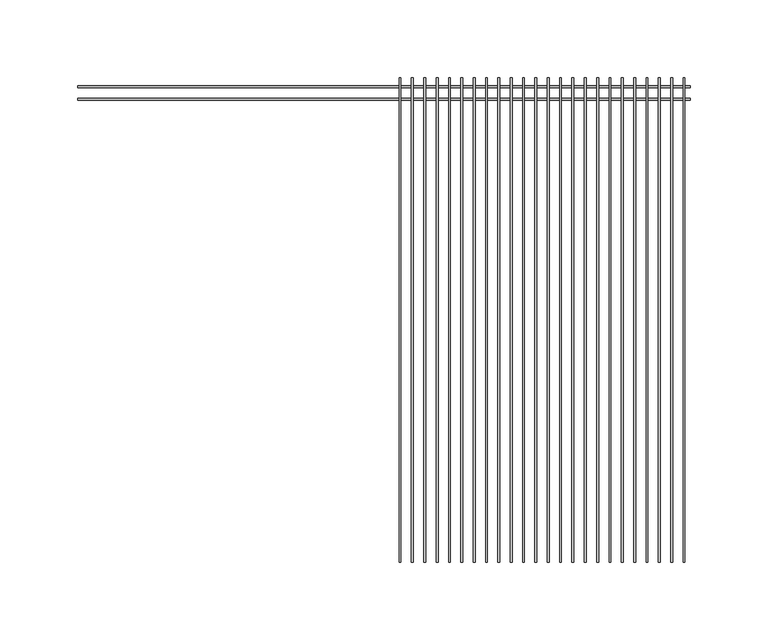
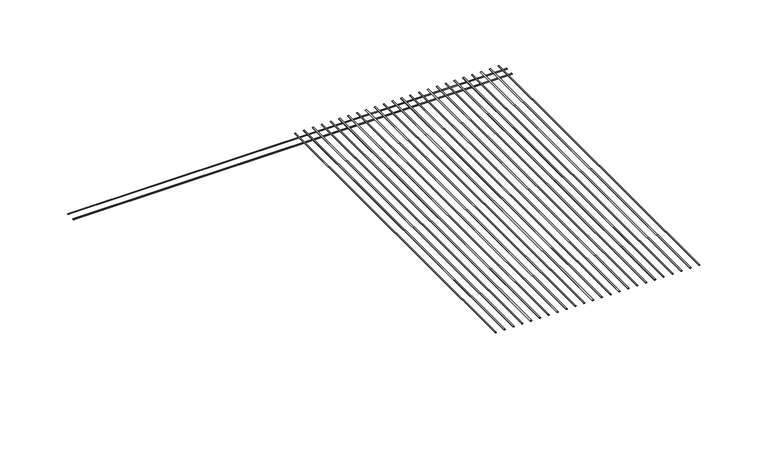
"""IFC4 building model written with IfcOpenShell, lengths in millimetres: proxy geometry, CRAi Generic Model Mesh Piece Face Based : CRAi Generic Model Mesh Piece Face Based."""

from ifc_helpers import new_model, si_unit, point, frame, origin, place, context, project, spatial, ellipse_curve, trimmed, source, transform, mapped, element, save
from ifc_brep_helpers import plane_surface, extruded_surface, advanced_brep


def generic_models_cb092f88(model_context):
    return source(origin(), model_context, "Body", "AdvancedBrep", [
        advanced_brep(
        [(9.7234375, -155.6875423, -2.5796875), (10.9140625, -155.6875423, -2.5796875), (9.7234375, 155.6875423, -2.5796875), (10.9140625, 155.6875423, -2.5796875)],
        [
            (0, 1, ellipse_curve(frame((10.31875, -155.6875423, -2.5796875), z_axis=(0.0, -1.0, 0.0), x_axis=(1.0, 0.0, 0.0)), 0.5953125, 0.1984375)),
            (1, 0, ellipse_curve(frame((10.31875, -155.6875423, -2.5796875), z_axis=(0.0, -1.0, 0.0), x_axis=(1.0, 0.0, 0.0)), 0.5953125, 0.1984375)),
            (2, 3, ellipse_curve(frame((10.31875, 155.6875423, -2.5796875), z_axis=(0.0, 1.0, 0.0), x_axis=(1.0, 0.0, 0.0)), 0.5953125, 0.1984375)),
            (3, 2, ellipse_curve(frame((10.31875, 155.6875423, -2.5796875), z_axis=(0.0, 1.0, 0.0), x_axis=(1.0, 0.0, 0.0)), 0.5953125, 0.1984375)),
            (0, 2),
            (3, 1),
        ],
        [
            plane_surface(frame((10.31875, -155.6875423, -2.5796875), z_axis=(0.0, -1.0, 0.0), x_axis=(0.0, 0.0, 1.0))),
            plane_surface(frame((10.31875, 155.6875423, -2.5796875), z_axis=(0.0, 1.0, 0.0), x_axis=(0.0, 0.0, 1.0))),
            extruded_surface(trimmed(ellipse_curve(frame((10.31875, 155.6875423, -2.5796875), z_axis=(0.0, -1.0, 0.0), x_axis=(1.0, 0.0, 0.0)), 0.5953125, 0.1984375), [point((9.7234375, 155.6875423, -2.5796875))], [point((10.9140625, 155.6875423, -2.5796875))], True, "CARTESIAN"), (0.0, -311.3750846, 0.0), 311.3750846),
            extruded_surface(trimmed(ellipse_curve(frame((10.31875, 155.6875423, -2.5796875), z_axis=(0.0, -1.0, 0.0), x_axis=(1.0, 0.0, 0.0)), 0.5953125, 0.1984375), [point((10.9140625, 155.6875423, -2.5796875))], [point((9.7234375, 155.6875423, -2.5796875))], True, "CARTESIAN"), (0.0, -311.3750846, 0.0), 311.3750846),
        ],
        [
            (0, [[1, 2]]),
            (1, [[3, 4]]),
            (2, [[-1, 5, -4, 6]]),
            (3, [[-2, -6, -3, -5]]),
        ],
    ),
        advanced_brep(
        [(17.6609375, -155.6875423, -2.5796875), (18.8515625, -155.6875423, -2.5796875), (17.6609375, 155.6875423, -2.5796875), (18.8515625, 155.6875423, -2.5796875)],
        [
            (0, 1, ellipse_curve(frame((18.25625, -155.6875423, -2.5796875), z_axis=(0.0, -1.0, 0.0), x_axis=(1.0, 0.0, 0.0)), 0.5953125, 0.1984375)),
            (1, 0, ellipse_curve(frame((18.25625, -155.6875423, -2.5796875), z_axis=(0.0, -1.0, 0.0), x_axis=(1.0, 0.0, 0.0)), 0.5953125, 0.1984375)),
            (2, 3, ellipse_curve(frame((18.25625, 155.6875423, -2.5796875), z_axis=(0.0, 1.0, 0.0), x_axis=(1.0, 0.0, 0.0)), 0.5953125, 0.1984375)),
            (3, 2, ellipse_curve(frame((18.25625, 155.6875423, -2.5796875), z_axis=(0.0, 1.0, 0.0), x_axis=(1.0, 0.0, 0.0)), 0.5953125, 0.1984375)),
            (0, 2),
            (3, 1),
        ],
        [
            plane_surface(frame((18.25625, -155.6875423, -2.5796875), z_axis=(0.0, -1.0, 0.0), x_axis=(0.0, 0.0, 1.0))),
            plane_surface(frame((18.25625, 155.6875423, -2.5796875), z_axis=(0.0, 1.0, 0.0), x_axis=(0.0, 0.0, 1.0))),
            extruded_surface(trimmed(ellipse_curve(frame((18.25625, 155.6875423, -2.5796875), z_axis=(0.0, -1.0, 0.0), x_axis=(1.0, 0.0, 0.0)), 0.5953125, 0.1984375), [point((17.6609375, 155.6875423, -2.5796875))], [point((18.8515625, 155.6875423, -2.5796875))], True, "CARTESIAN"), (0.0, -311.3750846, 0.0), 311.3750846),
            extruded_surface(trimmed(ellipse_curve(frame((18.25625, 155.6875423, -2.5796875), z_axis=(0.0, -1.0, 0.0), x_axis=(1.0, 0.0, 0.0)), 0.5953125, 0.1984375), [point((18.8515625, 155.6875423, -2.5796875))], [point((17.6609375, 155.6875423, -2.5796875))], True, "CARTESIAN"), (0.0, -311.3750846, 0.0), 311.3750846),
        ],
        [
            (0, [[1, 2]]),
            (1, [[3, 4]]),
            (2, [[-1, 5, -4, 6]]),
            (3, [[-2, -6, -3, -5]]),
        ],
    ),
        advanced_brep(
        [(25.5984375, -155.6875423, -2.5796875), (26.7890625, -155.6875423, -2.5796875), (25.5984375, 155.6875423, -2.5796875), (26.7890625, 155.6875423, -2.5796875)],
        [
            (0, 1, ellipse_curve(frame((26.19375, -155.6875423, -2.5796875), z_axis=(0.0, -1.0, 0.0), x_axis=(1.0, 0.0, 0.0)), 0.5953125, 0.1984375)),
            (1, 0, ellipse_curve(frame((26.19375, -155.6875423, -2.5796875), z_axis=(0.0, -1.0, 0.0), x_axis=(1.0, 0.0, 0.0)), 0.5953125, 0.1984375)),
            (2, 3, ellipse_curve(frame((26.19375, 155.6875423, -2.5796875), z_axis=(0.0, 1.0, 0.0), x_axis=(1.0, 0.0, 0.0)), 0.5953125, 0.1984375)),
            (3, 2, ellipse_curve(frame((26.19375, 155.6875423, -2.5796875), z_axis=(0.0, 1.0, 0.0), x_axis=(1.0, 0.0, 0.0)), 0.5953125, 0.1984375)),
            (0, 2),
            (3, 1),
        ],
        [
            plane_surface(frame((26.19375, -155.6875423, -2.5796875), z_axis=(0.0, -1.0, 0.0), x_axis=(0.0, 0.0, 1.0))),
            plane_surface(frame((26.19375, 155.6875423, -2.5796875), z_axis=(0.0, 1.0, 0.0), x_axis=(0.0, 0.0, 1.0))),
            extruded_surface(trimmed(ellipse_curve(frame((26.19375, 155.6875423, -2.5796875), z_axis=(0.0, -1.0, 0.0), x_axis=(1.0, 0.0, 0.0)), 0.5953125, 0.1984375), [point((25.5984375, 155.6875423, -2.5796875))], [point((26.7890625, 155.6875423, -2.5796875))], True, "CARTESIAN"), (0.0, -311.3750846, 0.0), 311.3750846),
            extruded_surface(trimmed(ellipse_curve(frame((26.19375, 155.6875423, -2.5796875), z_axis=(0.0, -1.0, 0.0), x_axis=(1.0, 0.0, 0.0)), 0.5953125, 0.1984375), [point((26.7890625, 155.6875423, -2.5796875))], [point((25.5984375, 155.6875423, -2.5796875))], True, "CARTESIAN"), (0.0, -311.3750846, 0.0), 311.3750846),
        ],
        [
            (0, [[1, 2]]),
            (1, [[3, 4]]),
            (2, [[-1, 5, -4, 6]]),
            (3, [[-2, -6, -3, -5]]),
        ],
    ),
        advanced_brep(
        [(33.5359375, -155.6875423, -2.5796875), (34.7265625, -155.6875423, -2.5796875), (33.5359375, 155.6875423, -2.5796875), (34.7265625, 155.6875423, -2.5796875)],
        [
            (0, 1, ellipse_curve(frame((34.13125, -155.6875423, -2.5796875), z_axis=(0.0, -1.0, 0.0), x_axis=(1.0, 0.0, 0.0)), 0.5953125, 0.1984375)),
            (1, 0, ellipse_curve(frame((34.13125, -155.6875423, -2.5796875), z_axis=(0.0, -1.0, 0.0), x_axis=(1.0, 0.0, 0.0)), 0.5953125, 0.1984375)),
            (2, 3, ellipse_curve(frame((34.13125, 155.6875423, -2.5796875), z_axis=(0.0, 1.0, 0.0), x_axis=(1.0, 0.0, 0.0)), 0.5953125, 0.1984375)),
            (3, 2, ellipse_curve(frame((34.13125, 155.6875423, -2.5796875), z_axis=(0.0, 1.0, 0.0), x_axis=(1.0, 0.0, 0.0)), 0.5953125, 0.1984375)),
            (0, 2),
            (3, 1),
        ],
        [
            plane_surface(frame((34.13125, -155.6875423, -2.5796875), z_axis=(0.0, -1.0, 0.0), x_axis=(0.0, 0.0, 1.0))),
            plane_surface(frame((34.13125, 155.6875423, -2.5796875), z_axis=(0.0, 1.0, 0.0), x_axis=(0.0, 0.0, 1.0))),
            extruded_surface(trimmed(ellipse_curve(frame((34.13125, 155.6875423, -2.5796875), z_axis=(0.0, -1.0, 0.0), x_axis=(1.0, 0.0, 0.0)), 0.5953125, 0.1984375), [point((33.5359375, 155.6875423, -2.5796875))], [point((34.7265625, 155.6875423, -2.5796875))], True, "CARTESIAN"), (0.0, -311.3750846, 0.0), 311.3750846),
            extruded_surface(trimmed(ellipse_curve(frame((34.13125, 155.6875423, -2.5796875), z_axis=(0.0, -1.0, 0.0), x_axis=(1.0, 0.0, 0.0)), 0.5953125, 0.1984375), [point((34.7265625, 155.6875423, -2.5796875))], [point((33.5359375, 155.6875423, -2.5796875))], True, "CARTESIAN"), (0.0, -311.3750846, 0.0), 311.3750846),
        ],
        [
            (0, [[1, 2]]),
            (1, [[3, 4]]),
            (2, [[-1, 5, -4, 6]]),
            (3, [[-2, -6, -3, -5]]),
        ],
    ),
        advanced_brep(
        [(41.4734375, -155.6875423, -2.5796875), (42.6640625, -155.6875423, -2.5796875), (41.4734375, 155.6875423, -2.5796875), (42.6640625, 155.6875423, -2.5796875)],
        [
            (0, 1, ellipse_curve(frame((42.06875, -155.6875423, -2.5796875), z_axis=(0.0, -1.0, 0.0), x_axis=(1.0, 0.0, 0.0)), 0.5953125, 0.1984375)),
            (1, 0, ellipse_curve(frame((42.06875, -155.6875423, -2.5796875), z_axis=(0.0, -1.0, 0.0), x_axis=(1.0, 0.0, 0.0)), 0.5953125, 0.1984375)),
            (2, 3, ellipse_curve(frame((42.06875, 155.6875423, -2.5796875), z_axis=(0.0, 1.0, 0.0), x_axis=(1.0, 0.0, 0.0)), 0.5953125, 0.1984375)),
            (3, 2, ellipse_curve(frame((42.06875, 155.6875423, -2.5796875), z_axis=(0.0, 1.0, 0.0), x_axis=(1.0, 0.0, 0.0)), 0.5953125, 0.1984375)),
            (0, 2),
            (3, 1),
        ],
        [
            plane_surface(frame((42.06875, -155.6875423, -2.5796875), z_axis=(0.0, -1.0, 0.0), x_axis=(0.0, 0.0, 1.0))),
            plane_surface(frame((42.06875, 155.6875423, -2.5796875), z_axis=(0.0, 1.0, 0.0), x_axis=(0.0, 0.0, 1.0))),
            extruded_surface(trimmed(ellipse_curve(frame((42.06875, 155.6875423, -2.5796875), z_axis=(0.0, -1.0, 0.0), x_axis=(1.0, 0.0, 0.0)), 0.5953125, 0.1984375), [point((41.4734375, 155.6875423, -2.5796875))], [point((42.6640625, 155.6875423, -2.5796875))], True, "CARTESIAN"), (0.0, -311.3750846, 0.0), 311.3750846),
            extruded_surface(trimmed(ellipse_curve(frame((42.06875, 155.6875423, -2.5796875), z_axis=(0.0, -1.0, 0.0), x_axis=(1.0, 0.0, 0.0)), 0.5953125, 0.1984375), [point((42.6640625, 155.6875423, -2.5796875))], [point((41.4734375, 155.6875423, -2.5796875))], True, "CARTESIAN"), (0.0, -311.3750846, 0.0), 311.3750846),
        ],
        [
            (0, [[1, 2]]),
            (1, [[3, 4]]),
            (2, [[-1, 5, -4, 6]]),
            (3, [[-2, -6, -3, -5]]),
        ],
    ),
        advanced_brep(
        [(49.4109375, -155.6875423, -2.5796875), (50.6015625, -155.6875423, -2.5796875), (49.4109375, 155.6875423, -2.5796875), (50.6015625, 155.6875423, -2.5796875)],
        [
            (0, 1, ellipse_curve(frame((50.00625, -155.6875423, -2.5796875), z_axis=(0.0, -1.0, 0.0), x_axis=(1.0, 0.0, 0.0)), 0.5953125, 0.1984375)),
            (1, 0, ellipse_curve(frame((50.00625, -155.6875423, -2.5796875), z_axis=(0.0, -1.0, 0.0), x_axis=(1.0, 0.0, 0.0)), 0.5953125, 0.1984375)),
            (2, 3, ellipse_curve(frame((50.00625, 155.6875423, -2.5796875), z_axis=(0.0, 1.0, 0.0), x_axis=(1.0, 0.0, 0.0)), 0.5953125, 0.1984375)),
            (3, 2, ellipse_curve(frame((50.00625, 155.6875423, -2.5796875), z_axis=(0.0, 1.0, 0.0), x_axis=(1.0, 0.0, 0.0)), 0.5953125, 0.1984375)),
            (0, 2),
            (3, 1),
        ],
        [
            plane_surface(frame((50.00625, -155.6875423, -2.5796875), z_axis=(0.0, -1.0, 0.0), x_axis=(0.0, 0.0, 1.0))),
            plane_surface(frame((50.00625, 155.6875423, -2.5796875), z_axis=(0.0, 1.0, 0.0), x_axis=(0.0, 0.0, 1.0))),
            extruded_surface(trimmed(ellipse_curve(frame((50.00625, 155.6875423, -2.5796875), z_axis=(0.0, -1.0, 0.0), x_axis=(1.0, 0.0, 0.0)), 0.5953125, 0.1984375), [point((49.4109375, 155.6875423, -2.5796875))], [point((50.6015625, 155.6875423, -2.5796875))], True, "CARTESIAN"), (0.0, -311.3750846, 0.0), 311.3750846),
            extruded_surface(trimmed(ellipse_curve(frame((50.00625, 155.6875423, -2.5796875), z_axis=(0.0, -1.0, 0.0), x_axis=(1.0, 0.0, 0.0)), 0.5953125, 0.1984375), [point((50.6015625, 155.6875423, -2.5796875))], [point((49.4109375, 155.6875423, -2.5796875))], True, "CARTESIAN"), (0.0, -311.3750846, 0.0), 311.3750846),
        ],
        [
            (0, [[1, 2]]),
            (1, [[3, 4]]),
            (2, [[-1, 5, -4, 6]]),
            (3, [[-2, -6, -3, -5]]),
        ],
    ),
        advanced_brep(
        [(57.3484375, -155.6875423, -2.5796875), (58.5390625, -155.6875423, -2.5796875), (57.3484375, 155.6875423, -2.5796875), (58.5390625, 155.6875423, -2.5796875)],
        [
            (0, 1, ellipse_curve(frame((57.94375, -155.6875423, -2.5796875), z_axis=(0.0, -1.0, 0.0), x_axis=(1.0, 0.0, 0.0)), 0.5953125, 0.1984375)),
            (1, 0, ellipse_curve(frame((57.94375, -155.6875423, -2.5796875), z_axis=(0.0, -1.0, 0.0), x_axis=(1.0, 0.0, 0.0)), 0.5953125, 0.1984375)),
            (2, 3, ellipse_curve(frame((57.94375, 155.6875423, -2.5796875), z_axis=(0.0, 1.0, 0.0), x_axis=(1.0, 0.0, 0.0)), 0.5953125, 0.1984375)),
            (3, 2, ellipse_curve(frame((57.94375, 155.6875423, -2.5796875), z_axis=(0.0, 1.0, 0.0), x_axis=(1.0, 0.0, 0.0)), 0.5953125, 0.1984375)),
            (0, 2),
            (3, 1),
        ],
        [
            plane_surface(frame((57.94375, -155.6875423, -2.5796875), z_axis=(0.0, -1.0, 0.0), x_axis=(0.0, 0.0, 1.0))),
            plane_surface(frame((57.94375, 155.6875423, -2.5796875), z_axis=(0.0, 1.0, 0.0), x_axis=(0.0, 0.0, 1.0))),
            extruded_surface(trimmed(ellipse_curve(frame((57.94375, 155.6875423, -2.5796875), z_axis=(0.0, -1.0, 0.0), x_axis=(1.0, 0.0, 0.0)), 0.5953125, 0.1984375), [point((57.3484375, 155.6875423, -2.5796875))], [point((58.5390625, 155.6875423, -2.5796875))], True, "CARTESIAN"), (0.0, -311.3750846, 0.0), 311.3750846),
            extruded_surface(trimmed(ellipse_curve(frame((57.94375, 155.6875423, -2.5796875), z_axis=(0.0, -1.0, 0.0), x_axis=(1.0, 0.0, 0.0)), 0.5953125, 0.1984375), [point((58.5390625, 155.6875423, -2.5796875))], [point((57.3484375, 155.6875423, -2.5796875))], True, "CARTESIAN"), (0.0, -311.3750846, 0.0), 311.3750846),
        ],
        [
            (0, [[1, 2]]),
            (1, [[3, 4]]),
            (2, [[-1, 5, -4, 6]]),
            (3, [[-2, -6, -3, -5]]),
        ],
    ),
        advanced_brep(
        [(65.2859375, -155.6875423, -2.5796875), (66.4765625, -155.6875423, -2.5796875), (65.2859375, 155.6875423, -2.5796875), (66.4765625, 155.6875423, -2.5796875)],
        [
            (0, 1, ellipse_curve(frame((65.88125, -155.6875423, -2.5796875), z_axis=(0.0, -1.0, 0.0), x_axis=(1.0, 0.0, 0.0)), 0.5953125, 0.1984375)),
            (1, 0, ellipse_curve(frame((65.88125, -155.6875423, -2.5796875), z_axis=(0.0, -1.0, 0.0), x_axis=(1.0, 0.0, 0.0)), 0.5953125, 0.1984375)),
            (2, 3, ellipse_curve(frame((65.88125, 155.6875423, -2.5796875), z_axis=(0.0, 1.0, 0.0), x_axis=(1.0, 0.0, 0.0)), 0.5953125, 0.1984375)),
            (3, 2, ellipse_curve(frame((65.88125, 155.6875423, -2.5796875), z_axis=(0.0, 1.0, 0.0), x_axis=(1.0, 0.0, 0.0)), 0.5953125, 0.1984375)),
            (0, 2),
            (3, 1),
        ],
        [
            plane_surface(frame((65.88125, -155.6875423, -2.5796875), z_axis=(0.0, -1.0, 0.0), x_axis=(0.0, 0.0, 1.0))),
            plane_surface(frame((65.88125, 155.6875423, -2.5796875), z_axis=(0.0, 1.0, 0.0), x_axis=(0.0, 0.0, 1.0))),
            extruded_surface(trimmed(ellipse_curve(frame((65.88125, 155.6875423, -2.5796875), z_axis=(0.0, -1.0, 0.0), x_axis=(1.0, 0.0, 0.0)), 0.5953125, 0.1984375), [point((65.2859375, 155.6875423, -2.5796875))], [point((66.4765625, 155.6875423, -2.5796875))], True, "CARTESIAN"), (0.0, -311.3750846, 0.0), 311.3750846),
            extruded_surface(trimmed(ellipse_curve(frame((65.88125, 155.6875423, -2.5796875), z_axis=(0.0, -1.0, 0.0), x_axis=(1.0, 0.0, 0.0)), 0.5953125, 0.1984375), [point((66.4765625, 155.6875423, -2.5796875))], [point((65.2859375, 155.6875423, -2.5796875))], True, "CARTESIAN"), (0.0, -311.3750846, 0.0), 311.3750846),
        ],
        [
            (0, [[1, 2]]),
            (1, [[3, 4]]),
            (2, [[-1, 5, -4, 6]]),
            (3, [[-2, -6, -3, -5]]),
        ],
    ),
        advanced_brep(
        [(73.2234375, -155.6875423, -2.5796875), (74.4140625, -155.6875423, -2.5796875), (73.2234375, 155.6875423, -2.5796875), (74.4140625, 155.6875423, -2.5796875)],
        [
            (0, 1, ellipse_curve(frame((73.81875, -155.6875423, -2.5796875), z_axis=(0.0, -1.0, 0.0), x_axis=(1.0, 0.0, 0.0)), 0.5953125, 0.1984375)),
            (1, 0, ellipse_curve(frame((73.81875, -155.6875423, -2.5796875), z_axis=(0.0, -1.0, 0.0), x_axis=(1.0, 0.0, 0.0)), 0.5953125, 0.1984375)),
            (2, 3, ellipse_curve(frame((73.81875, 155.6875423, -2.5796875), z_axis=(0.0, 1.0, 0.0), x_axis=(1.0, 0.0, 0.0)), 0.5953125, 0.1984375)),
            (3, 2, ellipse_curve(frame((73.81875, 155.6875423, -2.5796875), z_axis=(0.0, 1.0, 0.0), x_axis=(1.0, 0.0, 0.0)), 0.5953125, 0.1984375)),
            (0, 2),
            (3, 1),
        ],
        [
            plane_surface(frame((73.81875, -155.6875423, -2.5796875), z_axis=(0.0, -1.0, 0.0), x_axis=(0.0, 0.0, 1.0))),
            plane_surface(frame((73.81875, 155.6875423, -2.5796875), z_axis=(0.0, 1.0, 0.0), x_axis=(0.0, 0.0, 1.0))),
            extruded_surface(trimmed(ellipse_curve(frame((73.81875, 155.6875423, -2.5796875), z_axis=(0.0, -1.0, 0.0), x_axis=(1.0, 0.0, 0.0)), 0.5953125, 0.1984375), [point((73.2234375, 155.6875423, -2.5796875))], [point((74.4140625, 155.6875423, -2.5796875))], True, "CARTESIAN"), (0.0, -311.3750846, 0.0), 311.3750846),
            extruded_surface(trimmed(ellipse_curve(frame((73.81875, 155.6875423, -2.5796875), z_axis=(0.0, -1.0, 0.0), x_axis=(1.0, 0.0, 0.0)), 0.5953125, 0.1984375), [point((74.4140625, 155.6875423, -2.5796875))], [point((73.2234375, 155.6875423, -2.5796875))], True, "CARTESIAN"), (0.0, -311.3750846, 0.0), 311.3750846),
        ],
        [
            (0, [[1, 2]]),
            (1, [[3, 4]]),
            (2, [[-1, 5, -4, 6]]),
            (3, [[-2, -6, -3, -5]]),
        ],
    ),
        advanced_brep(
        [(81.1609375, -155.6875423, -2.5796875), (82.3515625, -155.6875423, -2.5796875), (81.1609375, 155.6875423, -2.5796875), (82.3515625, 155.6875423, -2.5796875)],
        [
            (0, 1, ellipse_curve(frame((81.75625, -155.6875423, -2.5796875), z_axis=(0.0, -1.0, 0.0), x_axis=(1.0, 0.0, 0.0)), 0.5953125, 0.1984375)),
            (1, 0, ellipse_curve(frame((81.75625, -155.6875423, -2.5796875), z_axis=(0.0, -1.0, 0.0), x_axis=(1.0, 0.0, 0.0)), 0.5953125, 0.1984375)),
            (2, 3, ellipse_curve(frame((81.75625, 155.6875423, -2.5796875), z_axis=(0.0, 1.0, 0.0), x_axis=(1.0, 0.0, 0.0)), 0.5953125, 0.1984375)),
            (3, 2, ellipse_curve(frame((81.75625, 155.6875423, -2.5796875), z_axis=(0.0, 1.0, 0.0), x_axis=(1.0, 0.0, 0.0)), 0.5953125, 0.1984375)),
            (0, 2),
            (3, 1),
        ],
        [
            plane_surface(frame((81.75625, -155.6875423, -2.5796875), z_axis=(0.0, -1.0, 0.0), x_axis=(0.0, 0.0, 1.0))),
            plane_surface(frame((81.75625, 155.6875423, -2.5796875), z_axis=(0.0, 1.0, 0.0), x_axis=(0.0, 0.0, 1.0))),
            extruded_surface(trimmed(ellipse_curve(frame((81.75625, 155.6875423, -2.5796875), z_axis=(0.0, -1.0, 0.0), x_axis=(1.0, 0.0, 0.0)), 0.5953125, 0.1984375), [point((81.1609375, 155.6875423, -2.5796875))], [point((82.3515625, 155.6875423, -2.5796875))], True, "CARTESIAN"), (0.0, -311.3750846, 0.0), 311.3750846),
            extruded_surface(trimmed(ellipse_curve(frame((81.75625, 155.6875423, -2.5796875), z_axis=(0.0, -1.0, 0.0), x_axis=(1.0, 0.0, 0.0)), 0.5953125, 0.1984375), [point((82.3515625, 155.6875423, -2.5796875))], [point((81.1609375, 155.6875423, -2.5796875))], True, "CARTESIAN"), (0.0, -311.3750846, 0.0), 311.3750846),
        ],
        [
            (0, [[1, 2]]),
            (1, [[3, 4]]),
            (2, [[-1, 5, -4, 6]]),
            (3, [[-2, -6, -3, -5]]),
        ],
    ),
        advanced_brep(
        [(89.0984375, -155.6875423, -2.5796875), (90.2890625, -155.6875423, -2.5796875), (89.0984375, 155.6875423, -2.5796875), (90.2890625, 155.6875423, -2.5796875)],
        [
            (0, 1, ellipse_curve(frame((89.69375, -155.6875423, -2.5796875), z_axis=(0.0, -1.0, 0.0), x_axis=(1.0, 0.0, 0.0)), 0.5953125, 0.1984375)),
            (1, 0, ellipse_curve(frame((89.69375, -155.6875423, -2.5796875), z_axis=(0.0, -1.0, 0.0), x_axis=(1.0, 0.0, 0.0)), 0.5953125, 0.1984375)),
            (2, 3, ellipse_curve(frame((89.69375, 155.6875423, -2.5796875), z_axis=(0.0, 1.0, 0.0), x_axis=(1.0, 0.0, 0.0)), 0.5953125, 0.1984375)),
            (3, 2, ellipse_curve(frame((89.69375, 155.6875423, -2.5796875), z_axis=(0.0, 1.0, 0.0), x_axis=(1.0, 0.0, 0.0)), 0.5953125, 0.1984375)),
            (0, 2),
            (3, 1),
        ],
        [
            plane_surface(frame((89.69375, -155.6875423, -2.5796875), z_axis=(0.0, -1.0, 0.0), x_axis=(0.0, 0.0, 1.0))),
            plane_surface(frame((89.69375, 155.6875423, -2.5796875), z_axis=(0.0, 1.0, 0.0), x_axis=(0.0, 0.0, 1.0))),
            extruded_surface(trimmed(ellipse_curve(frame((89.69375, 155.6875423, -2.5796875), z_axis=(0.0, -1.0, 0.0), x_axis=(1.0, 0.0, 0.0)), 0.5953125, 0.1984375), [point((89.0984375, 155.6875423, -2.5796875))], [point((90.2890625, 155.6875423, -2.5796875))], True, "CARTESIAN"), (0.0, -311.3750846, 0.0), 311.3750846),
            extruded_surface(trimmed(ellipse_curve(frame((89.69375, 155.6875423, -2.5796875), z_axis=(0.0, -1.0, 0.0), x_axis=(1.0, 0.0, 0.0)), 0.5953125, 0.1984375), [point((90.2890625, 155.6875423, -2.5796875))], [point((89.0984375, 155.6875423, -2.5796875))], True, "CARTESIAN"), (0.0, -311.3750846, 0.0), 311.3750846),
        ],
        [
            (0, [[1, 2]]),
            (1, [[3, 4]]),
            (2, [[-1, 5, -4, 6]]),
            (3, [[-2, -6, -3, -5]]),
        ],
    ),
        advanced_brep(
        [(97.0359375, -155.6875423, -2.5796875), (98.2265625, -155.6875423, -2.5796875), (97.0359375, 155.6875423, -2.5796875), (98.2265625, 155.6875423, -2.5796875)],
        [
            (0, 1, ellipse_curve(frame((97.63125, -155.6875423, -2.5796875), z_axis=(0.0, -1.0, 0.0), x_axis=(1.0, 0.0, 0.0)), 0.5953125, 0.1984375)),
            (1, 0, ellipse_curve(frame((97.63125, -155.6875423, -2.5796875), z_axis=(0.0, -1.0, 0.0), x_axis=(1.0, 0.0, 0.0)), 0.5953125, 0.1984375)),
            (2, 3, ellipse_curve(frame((97.63125, 155.6875423, -2.5796875), z_axis=(0.0, 1.0, 0.0), x_axis=(1.0, 0.0, 0.0)), 0.5953125, 0.1984375)),
            (3, 2, ellipse_curve(frame((97.63125, 155.6875423, -2.5796875), z_axis=(0.0, 1.0, 0.0), x_axis=(1.0, 0.0, 0.0)), 0.5953125, 0.1984375)),
            (0, 2),
            (3, 1),
        ],
        [
            plane_surface(frame((97.63125, -155.6875423, -2.5796875), z_axis=(0.0, -1.0, 0.0), x_axis=(0.0, 0.0, 1.0))),
            plane_surface(frame((97.63125, 155.6875423, -2.5796875), z_axis=(0.0, 1.0, 0.0), x_axis=(0.0, 0.0, 1.0))),
            extruded_surface(trimmed(ellipse_curve(frame((97.63125, 155.6875423, -2.5796875), z_axis=(0.0, -1.0, 0.0), x_axis=(1.0, 0.0, 0.0)), 0.5953125, 0.1984375), [point((97.0359375, 155.6875423, -2.5796875))], [point((98.2265625, 155.6875423, -2.5796875))], True, "CARTESIAN"), (0.0, -311.3750846, 0.0), 311.3750846),
            extruded_surface(trimmed(ellipse_curve(frame((97.63125, 155.6875423, -2.5796875), z_axis=(0.0, -1.0, 0.0), x_axis=(1.0, 0.0, 0.0)), 0.5953125, 0.1984375), [point((98.2265625, 155.6875423, -2.5796875))], [point((97.0359375, 155.6875423, -2.5796875))], True, "CARTESIAN"), (0.0, -311.3750846, 0.0), 311.3750846),
        ],
        [
            (0, [[1, 2]]),
            (1, [[3, 4]]),
            (2, [[-1, 5, -4, 6]]),
            (3, [[-2, -6, -3, -5]]),
        ],
    ),
        advanced_brep(
        [(104.9734375, -155.6875423, -2.5796875), (106.1640625, -155.6875423, -2.5796875), (104.9734375, 155.6875423, -2.5796875), (106.1640625, 155.6875423, -2.5796875)],
        [
            (0, 1, ellipse_curve(frame((105.56875, -155.6875423, -2.5796875), z_axis=(0.0, -1.0, 0.0), x_axis=(1.0, 0.0, 0.0)), 0.5953125, 0.1984375)),
            (1, 0, ellipse_curve(frame((105.56875, -155.6875423, -2.5796875), z_axis=(0.0, -1.0, 0.0), x_axis=(1.0, 0.0, 0.0)), 0.5953125, 0.1984375)),
            (2, 3, ellipse_curve(frame((105.56875, 155.6875423, -2.5796875), z_axis=(0.0, 1.0, 0.0), x_axis=(1.0, 0.0, 0.0)), 0.5953125, 0.1984375)),
            (3, 2, ellipse_curve(frame((105.56875, 155.6875423, -2.5796875), z_axis=(0.0, 1.0, 0.0), x_axis=(1.0, 0.0, 0.0)), 0.5953125, 0.1984375)),
            (0, 2),
            (3, 1),
        ],
        [
            plane_surface(frame((105.56875, -155.6875423, -2.5796875), z_axis=(0.0, -1.0, 0.0), x_axis=(0.0, 0.0, 1.0))),
            plane_surface(frame((105.56875, 155.6875423, -2.5796875), z_axis=(0.0, 1.0, 0.0), x_axis=(0.0, 0.0, 1.0))),
            extruded_surface(trimmed(ellipse_curve(frame((105.56875, 155.6875423, -2.5796875), z_axis=(0.0, -1.0, 0.0), x_axis=(1.0, 0.0, 0.0)), 0.5953125, 0.1984375), [point((104.9734375, 155.6875423, -2.5796875))], [point((106.1640625, 155.6875423, -2.5796875))], True, "CARTESIAN"), (0.0, -311.3750846, 0.0), 311.3750846),
            extruded_surface(trimmed(ellipse_curve(frame((105.56875, 155.6875423, -2.5796875), z_axis=(0.0, -1.0, 0.0), x_axis=(1.0, 0.0, 0.0)), 0.5953125, 0.1984375), [point((106.1640625, 155.6875423, -2.5796875))], [point((104.9734375, 155.6875423, -2.5796875))], True, "CARTESIAN"), (0.0, -311.3750846, 0.0), 311.3750846),
        ],
        [
            (0, [[1, 2]]),
            (1, [[3, 4]]),
            (2, [[-1, 5, -4, 6]]),
            (3, [[-2, -6, -3, -5]]),
        ],
    ),
        advanced_brep(
        [(112.9109375, -155.6875423, -2.5796875), (114.1015625, -155.6875423, -2.5796875), (112.9109375, 155.6875423, -2.5796875), (114.1015625, 155.6875423, -2.5796875)],
        [
            (0, 1, ellipse_curve(frame((113.50625, -155.6875423, -2.5796875), z_axis=(0.0, -1.0, 0.0), x_axis=(1.0, 0.0, 0.0)), 0.5953125, 0.1984375)),
            (1, 0, ellipse_curve(frame((113.50625, -155.6875423, -2.5796875), z_axis=(0.0, -1.0, 0.0), x_axis=(1.0, 0.0, 0.0)), 0.5953125, 0.1984375)),
            (2, 3, ellipse_curve(frame((113.50625, 155.6875423, -2.5796875), z_axis=(0.0, 1.0, 0.0), x_axis=(1.0, 0.0, 0.0)), 0.5953125, 0.1984375)),
            (3, 2, ellipse_curve(frame((113.50625, 155.6875423, -2.5796875), z_axis=(0.0, 1.0, 0.0), x_axis=(1.0, 0.0, 0.0)), 0.5953125, 0.1984375)),
            (0, 2),
            (3, 1),
        ],
        [
            plane_surface(frame((113.50625, -155.6875423, -2.5796875), z_axis=(0.0, -1.0, 0.0), x_axis=(0.0, 0.0, 1.0))),
            plane_surface(frame((113.50625, 155.6875423, -2.5796875), z_axis=(0.0, 1.0, 0.0), x_axis=(0.0, 0.0, 1.0))),
            extruded_surface(trimmed(ellipse_curve(frame((113.50625, 155.6875423, -2.5796875), z_axis=(0.0, -1.0, 0.0), x_axis=(1.0, 0.0, 0.0)), 0.5953125, 0.1984375), [point((112.9109375, 155.6875423, -2.5796875))], [point((114.1015625, 155.6875423, -2.5796875))], True, "CARTESIAN"), (0.0, -311.3750846, 0.0), 311.3750846),
            extruded_surface(trimmed(ellipse_curve(frame((113.50625, 155.6875423, -2.5796875), z_axis=(0.0, -1.0, 0.0), x_axis=(1.0, 0.0, 0.0)), 0.5953125, 0.1984375), [point((114.1015625, 155.6875423, -2.5796875))], [point((112.9109375, 155.6875423, -2.5796875))], True, "CARTESIAN"), (0.0, -311.3750846, 0.0), 311.3750846),
        ],
        [
            (0, [[1, 2]]),
            (1, [[3, 4]]),
            (2, [[-1, 5, -4, 6]]),
            (3, [[-2, -6, -3, -5]]),
        ],
    ),
        advanced_brep(
        [(120.8484375, -155.6875423, -2.5796875), (122.0390625, -155.6875423, -2.5796875), (120.8484375, 155.6875423, -2.5796875), (122.0390625, 155.6875423, -2.5796875)],
        [
            (0, 1, ellipse_curve(frame((121.44375, -155.6875423, -2.5796875), z_axis=(0.0, -1.0, 0.0), x_axis=(1.0, 0.0, 0.0)), 0.5953125, 0.1984375)),
            (1, 0, ellipse_curve(frame((121.44375, -155.6875423, -2.5796875), z_axis=(0.0, -1.0, 0.0), x_axis=(1.0, 0.0, 0.0)), 0.5953125, 0.1984375)),
            (2, 3, ellipse_curve(frame((121.44375, 155.6875423, -2.5796875), z_axis=(0.0, 1.0, 0.0), x_axis=(1.0, 0.0, 0.0)), 0.5953125, 0.1984375)),
            (3, 2, ellipse_curve(frame((121.44375, 155.6875423, -2.5796875), z_axis=(0.0, 1.0, 0.0), x_axis=(1.0, 0.0, 0.0)), 0.5953125, 0.1984375)),
            (0, 2),
            (3, 1),
        ],
        [
            plane_surface(frame((121.44375, -155.6875423, -2.5796875), z_axis=(0.0, -1.0, 0.0), x_axis=(0.0, 0.0, 1.0))),
            plane_surface(frame((121.44375, 155.6875423, -2.5796875), z_axis=(0.0, 1.0, 0.0), x_axis=(0.0, 0.0, 1.0))),
            extruded_surface(trimmed(ellipse_curve(frame((121.44375, 155.6875423, -2.5796875), z_axis=(0.0, -1.0, 0.0), x_axis=(1.0, 0.0, 0.0)), 0.5953125, 0.1984375), [point((120.8484375, 155.6875423, -2.5796875))], [point((122.0390625, 155.6875423, -2.5796875))], True, "CARTESIAN"), (0.0, -311.3750846, 0.0), 311.3750846),
            extruded_surface(trimmed(ellipse_curve(frame((121.44375, 155.6875423, -2.5796875), z_axis=(0.0, -1.0, 0.0), x_axis=(1.0, 0.0, 0.0)), 0.5953125, 0.1984375), [point((122.0390625, 155.6875423, -2.5796875))], [point((120.8484375, 155.6875423, -2.5796875))], True, "CARTESIAN"), (0.0, -311.3750846, 0.0), 311.3750846),
        ],
        [
            (0, [[1, 2]]),
            (1, [[3, 4]]),
            (2, [[-1, 5, -4, 6]]),
            (3, [[-2, -6, -3, -5]]),
        ],
    ),
        advanced_brep(
        [(128.7859375, -155.6875423, -2.5796875), (129.9765625, -155.6875423, -2.5796875), (128.7859375, 155.6875423, -2.5796875), (129.9765625, 155.6875423, -2.5796875)],
        [
            (0, 1, ellipse_curve(frame((129.38125, -155.6875423, -2.5796875), z_axis=(0.0, -1.0, 0.0), x_axis=(1.0, 0.0, 0.0)), 0.5953125, 0.1984375)),
            (1, 0, ellipse_curve(frame((129.38125, -155.6875423, -2.5796875), z_axis=(0.0, -1.0, 0.0), x_axis=(1.0, 0.0, 0.0)), 0.5953125, 0.1984375)),
            (2, 3, ellipse_curve(frame((129.38125, 155.6875423, -2.5796875), z_axis=(0.0, 1.0, 0.0), x_axis=(1.0, 0.0, 0.0)), 0.5953125, 0.1984375)),
            (3, 2, ellipse_curve(frame((129.38125, 155.6875423, -2.5796875), z_axis=(0.0, 1.0, 0.0), x_axis=(1.0, 0.0, 0.0)), 0.5953125, 0.1984375)),
            (0, 2),
            (3, 1),
        ],
        [
            plane_surface(frame((129.38125, -155.6875423, -2.5796875), z_axis=(0.0, -1.0, 0.0), x_axis=(0.0, 0.0, 1.0))),
            plane_surface(frame((129.38125, 155.6875423, -2.5796875), z_axis=(0.0, 1.0, 0.0), x_axis=(0.0, 0.0, 1.0))),
            extruded_surface(trimmed(ellipse_curve(frame((129.38125, 155.6875423, -2.5796875), z_axis=(0.0, -1.0, 0.0), x_axis=(1.0, 0.0, 0.0)), 0.5953125, 0.1984375), [point((128.7859375, 155.6875423, -2.5796875))], [point((129.9765625, 155.6875423, -2.5796875))], True, "CARTESIAN"), (0.0, -311.3750846, 0.0), 311.3750846),
            extruded_surface(trimmed(ellipse_curve(frame((129.38125, 155.6875423, -2.5796875), z_axis=(0.0, -1.0, 0.0), x_axis=(1.0, 0.0, 0.0)), 0.5953125, 0.1984375), [point((129.9765625, 155.6875423, -2.5796875))], [point((128.7859375, 155.6875423, -2.5796875))], True, "CARTESIAN"), (0.0, -311.3750846, 0.0), 311.3750846),
        ],
        [
            (0, [[1, 2]]),
            (1, [[3, 4]]),
            (2, [[-1, 5, -4, 6]]),
            (3, [[-2, -6, -3, -5]]),
        ],
    ),
        advanced_brep(
        [(136.7234375, -155.6875423, -2.5796875), (137.9140625, -155.6875423, -2.5796875), (136.7234375, 155.6875423, -2.5796875), (137.9140625, 155.6875423, -2.5796875)],
        [
            (0, 1, ellipse_curve(frame((137.31875, -155.6875423, -2.5796875), z_axis=(0.0, -1.0, 0.0), x_axis=(1.0, 0.0, 0.0)), 0.5953125, 0.1984375)),
            (1, 0, ellipse_curve(frame((137.31875, -155.6875423, -2.5796875), z_axis=(0.0, -1.0, 0.0), x_axis=(1.0, 0.0, 0.0)), 0.5953125, 0.1984375)),
            (2, 3, ellipse_curve(frame((137.31875, 155.6875423, -2.5796875), z_axis=(0.0, 1.0, 0.0), x_axis=(1.0, 0.0, 0.0)), 0.5953125, 0.1984375)),
            (3, 2, ellipse_curve(frame((137.31875, 155.6875423, -2.5796875), z_axis=(0.0, 1.0, 0.0), x_axis=(1.0, 0.0, 0.0)), 0.5953125, 0.1984375)),
            (0, 2),
            (3, 1),
        ],
        [
            plane_surface(frame((137.31875, -155.6875423, -2.5796875), z_axis=(0.0, -1.0, 0.0), x_axis=(0.0, 0.0, 1.0))),
            plane_surface(frame((137.31875, 155.6875423, -2.5796875), z_axis=(0.0, 1.0, 0.0), x_axis=(0.0, 0.0, 1.0))),
            extruded_surface(trimmed(ellipse_curve(frame((137.31875, 155.6875423, -2.5796875), z_axis=(0.0, -1.0, 0.0), x_axis=(1.0, 0.0, 0.0)), 0.5953125, 0.1984375), [point((136.7234375, 155.6875423, -2.5796875))], [point((137.9140625, 155.6875423, -2.5796875))], True, "CARTESIAN"), (0.0, -311.3750846, 0.0), 311.3750846),
            extruded_surface(trimmed(ellipse_curve(frame((137.31875, 155.6875423, -2.5796875), z_axis=(0.0, -1.0, 0.0), x_axis=(1.0, 0.0, 0.0)), 0.5953125, 0.1984375), [point((137.9140625, 155.6875423, -2.5796875))], [point((136.7234375, 155.6875423, -2.5796875))], True, "CARTESIAN"), (0.0, -311.3750846, 0.0), 311.3750846),
        ],
        [
            (0, [[1, 2]]),
            (1, [[3, 4]]),
            (2, [[-1, 5, -4, 6]]),
            (3, [[-2, -6, -3, -5]]),
        ],
    ),
        advanced_brep(
        [(144.6609375, -155.6875423, -2.5796875), (145.8515625, -155.6875423, -2.5796875), (144.6609375, 155.6875423, -2.5796875), (145.8515625, 155.6875423, -2.5796875)],
        [
            (0, 1, ellipse_curve(frame((145.25625, -155.6875423, -2.5796875), z_axis=(0.0, -1.0, 0.0), x_axis=(1.0, 0.0, 0.0)), 0.5953125, 0.1984375)),
            (1, 0, ellipse_curve(frame((145.25625, -155.6875423, -2.5796875), z_axis=(0.0, -1.0, 0.0), x_axis=(1.0, 0.0, 0.0)), 0.5953125, 0.1984375)),
            (2, 3, ellipse_curve(frame((145.25625, 155.6875423, -2.5796875), z_axis=(0.0, 1.0, 0.0), x_axis=(1.0, 0.0, 0.0)), 0.5953125, 0.1984375)),
            (3, 2, ellipse_curve(frame((145.25625, 155.6875423, -2.5796875), z_axis=(0.0, 1.0, 0.0), x_axis=(1.0, 0.0, 0.0)), 0.5953125, 0.1984375)),
            (0, 2),
            (3, 1),
        ],
        [
            plane_surface(frame((145.25625, -155.6875423, -2.5796875), z_axis=(0.0, -1.0, 0.0), x_axis=(0.0, 0.0, 1.0))),
            plane_surface(frame((145.25625, 155.6875423, -2.5796875), z_axis=(0.0, 1.0, 0.0), x_axis=(0.0, 0.0, 1.0))),
            extruded_surface(trimmed(ellipse_curve(frame((145.25625, 155.6875423, -2.5796875), z_axis=(0.0, -1.0, 0.0), x_axis=(1.0, 0.0, 0.0)), 0.5953125, 0.1984375), [point((144.6609375, 155.6875423, -2.5796875))], [point((145.8515625, 155.6875423, -2.5796875))], True, "CARTESIAN"), (0.0, -311.3750846, 0.0), 311.3750846),
            extruded_surface(trimmed(ellipse_curve(frame((145.25625, 155.6875423, -2.5796875), z_axis=(0.0, -1.0, 0.0), x_axis=(1.0, 0.0, 0.0)), 0.5953125, 0.1984375), [point((145.8515625, 155.6875423, -2.5796875))], [point((144.6609375, 155.6875423, -2.5796875))], True, "CARTESIAN"), (0.0, -311.3750846, 0.0), 311.3750846),
        ],
        [
            (0, [[1, 2]]),
            (1, [[3, 4]]),
            (2, [[-1, 5, -4, 6]]),
            (3, [[-2, -6, -3, -5]]),
        ],
    ),
        advanced_brep(
        [(152.5984375, -155.6875423, -2.5796875), (153.7890625, -155.6875423, -2.5796875), (152.5984375, 155.6875423, -2.5796875), (153.7890625, 155.6875423, -2.5796875)],
        [
            (0, 1, ellipse_curve(frame((153.19375, -155.6875423, -2.5796875), z_axis=(0.0, -1.0, 0.0), x_axis=(1.0, 0.0, 0.0)), 0.5953125, 0.1984375)),
            (1, 0, ellipse_curve(frame((153.19375, -155.6875423, -2.5796875), z_axis=(0.0, -1.0, 0.0), x_axis=(1.0, 0.0, 0.0)), 0.5953125, 0.1984375)),
            (2, 3, ellipse_curve(frame((153.19375, 155.6875423, -2.5796875), z_axis=(0.0, 1.0, 0.0), x_axis=(1.0, 0.0, 0.0)), 0.5953125, 0.1984375)),
            (3, 2, ellipse_curve(frame((153.19375, 155.6875423, -2.5796875), z_axis=(0.0, 1.0, 0.0), x_axis=(1.0, 0.0, 0.0)), 0.5953125, 0.1984375)),
            (0, 2),
            (3, 1),
        ],
        [
            plane_surface(frame((153.19375, -155.6875423, -2.5796875), z_axis=(0.0, -1.0, 0.0), x_axis=(0.0, 0.0, 1.0))),
            plane_surface(frame((153.19375, 155.6875423, -2.5796875), z_axis=(0.0, 1.0, 0.0), x_axis=(0.0, 0.0, 1.0))),
            extruded_surface(trimmed(ellipse_curve(frame((153.19375, 155.6875423, -2.5796875), z_axis=(0.0, -1.0, 0.0), x_axis=(1.0, 0.0, 0.0)), 0.5953125, 0.1984375), [point((152.5984375, 155.6875423, -2.5796875))], [point((153.7890625, 155.6875423, -2.5796875))], True, "CARTESIAN"), (0.0, -311.3750846, 0.0), 311.3750846),
            extruded_surface(trimmed(ellipse_curve(frame((153.19375, 155.6875423, -2.5796875), z_axis=(0.0, -1.0, 0.0), x_axis=(1.0, 0.0, 0.0)), 0.5953125, 0.1984375), [point((153.7890625, 155.6875423, -2.5796875))], [point((152.5984375, 155.6875423, -2.5796875))], True, "CARTESIAN"), (0.0, -311.3750846, 0.0), 311.3750846),
        ],
        [
            (0, [[1, 2]]),
            (1, [[3, 4]]),
            (2, [[-1, 5, -4, 6]]),
            (3, [[-2, -6, -3, -5]]),
        ],
    ),
        advanced_brep(
        [(160.5359375, -155.6875423, -2.5796875), (161.7265625, -155.6875423, -2.5796875), (160.5359375, 155.6875423, -2.5796875), (161.7265625, 155.6875423, -2.5796875)],
        [
            (0, 1, ellipse_curve(frame((161.13125, -155.6875423, -2.5796875), z_axis=(0.0, -1.0, 0.0), x_axis=(1.0, 0.0, 0.0)), 0.5953125, 0.1984375)),
            (1, 0, ellipse_curve(frame((161.13125, -155.6875423, -2.5796875), z_axis=(0.0, -1.0, 0.0), x_axis=(1.0, 0.0, 0.0)), 0.5953125, 0.1984375)),
            (2, 3, ellipse_curve(frame((161.13125, 155.6875423, -2.5796875), z_axis=(0.0, 1.0, 0.0), x_axis=(1.0, 0.0, 0.0)), 0.5953125, 0.1984375)),
            (3, 2, ellipse_curve(frame((161.13125, 155.6875423, -2.5796875), z_axis=(0.0, 1.0, 0.0), x_axis=(1.0, 0.0, 0.0)), 0.5953125, 0.1984375)),
            (0, 2),
            (3, 1),
        ],
        [
            plane_surface(frame((161.13125, -155.6875423, -2.5796875), z_axis=(0.0, -1.0, 0.0), x_axis=(0.0, 0.0, 1.0))),
            plane_surface(frame((161.13125, 155.6875423, -2.5796875), z_axis=(0.0, 1.0, 0.0), x_axis=(0.0, 0.0, 1.0))),
            extruded_surface(trimmed(ellipse_curve(frame((161.13125, 155.6875423, -2.5796875), z_axis=(0.0, -1.0, 0.0), x_axis=(1.0, 0.0, 0.0)), 0.5953125, 0.1984375), [point((160.5359375, 155.6875423, -2.5796875))], [point((161.7265625, 155.6875423, -2.5796875))], True, "CARTESIAN"), (0.0, -311.3750846, 0.0), 311.3750846),
            extruded_surface(trimmed(ellipse_curve(frame((161.13125, 155.6875423, -2.5796875), z_axis=(0.0, -1.0, 0.0), x_axis=(1.0, 0.0, 0.0)), 0.5953125, 0.1984375), [point((161.7265625, 155.6875423, -2.5796875))], [point((160.5359375, 155.6875423, -2.5796875))], True, "CARTESIAN"), (0.0, -311.3750846, 0.0), 311.3750846),
        ],
        [
            (0, [[1, 2]]),
            (1, [[3, 4]]),
            (2, [[-1, 5, -4, 6]]),
            (3, [[-2, -6, -3, -5]]),
        ],
    ),
        advanced_brep(
        [(168.4734375, -155.6875423, -2.5796875), (169.6640625, -155.6875423, -2.5796875), (168.4734375, 155.6875423, -2.5796875), (169.6640625, 155.6875423, -2.5796875)],
        [
            (0, 1, ellipse_curve(frame((169.06875, -155.6875423, -2.5796875), z_axis=(0.0, -1.0, 0.0), x_axis=(1.0, 0.0, 0.0)), 0.5953125, 0.1984375)),
            (1, 0, ellipse_curve(frame((169.06875, -155.6875423, -2.5796875), z_axis=(0.0, -1.0, 0.0), x_axis=(1.0, 0.0, 0.0)), 0.5953125, 0.1984375)),
            (2, 3, ellipse_curve(frame((169.06875, 155.6875423, -2.5796875), z_axis=(0.0, 1.0, 0.0), x_axis=(1.0, 0.0, 0.0)), 0.5953125, 0.1984375)),
            (3, 2, ellipse_curve(frame((169.06875, 155.6875423, -2.5796875), z_axis=(0.0, 1.0, 0.0), x_axis=(1.0, 0.0, 0.0)), 0.5953125, 0.1984375)),
            (0, 2),
            (3, 1),
        ],
        [
            plane_surface(frame((169.06875, -155.6875423, -2.5796875), z_axis=(0.0, -1.0, 0.0), x_axis=(0.0, 0.0, 1.0))),
            plane_surface(frame((169.06875, 155.6875423, -2.5796875), z_axis=(0.0, 1.0, 0.0), x_axis=(0.0, 0.0, 1.0))),
            extruded_surface(trimmed(ellipse_curve(frame((169.06875, 155.6875423, -2.5796875), z_axis=(0.0, -1.0, 0.0), x_axis=(1.0, 0.0, 0.0)), 0.5953125, 0.1984375), [point((168.4734375, 155.6875423, -2.5796875))], [point((169.6640625, 155.6875423, -2.5796875))], True, "CARTESIAN"), (0.0, -311.3750846, 0.0), 311.3750846),
            extruded_surface(trimmed(ellipse_curve(frame((169.06875, 155.6875423, -2.5796875), z_axis=(0.0, -1.0, 0.0), x_axis=(1.0, 0.0, 0.0)), 0.5953125, 0.1984375), [point((169.6640625, 155.6875423, -2.5796875))], [point((168.4734375, 155.6875423, -2.5796875))], True, "CARTESIAN"), (0.0, -311.3750846, 0.0), 311.3750846),
        ],
        [
            (0, [[1, 2]]),
            (1, [[3, 4]]),
            (2, [[-1, 5, -4, 6]]),
            (3, [[-2, -6, -3, -5]]),
        ],
    ),
        advanced_brep(
        [(176.4109375, -155.6875423, -2.5796875), (177.6015625, -155.6875423, -2.5796875), (176.4109375, 155.6875423, -2.5796875), (177.6015625, 155.6875423, -2.5796875)],
        [
            (0, 1, ellipse_curve(frame((177.00625, -155.6875423, -2.5796875), z_axis=(0.0, -1.0, 0.0), x_axis=(1.0, 0.0, 0.0)), 0.5953125, 0.1984375)),
            (1, 0, ellipse_curve(frame((177.00625, -155.6875423, -2.5796875), z_axis=(0.0, -1.0, 0.0), x_axis=(1.0, 0.0, 0.0)), 0.5953125, 0.1984375)),
            (2, 3, ellipse_curve(frame((177.00625, 155.6875423, -2.5796875), z_axis=(0.0, 1.0, 0.0), x_axis=(1.0, 0.0, 0.0)), 0.5953125, 0.1984375)),
            (3, 2, ellipse_curve(frame((177.00625, 155.6875423, -2.5796875), z_axis=(0.0, 1.0, 0.0), x_axis=(1.0, 0.0, 0.0)), 0.5953125, 0.1984375)),
            (0, 2),
            (3, 1),
        ],
        [
            plane_surface(frame((177.00625, -155.6875423, -2.5796875), z_axis=(0.0, -1.0, 0.0), x_axis=(0.0, 0.0, 1.0))),
            plane_surface(frame((177.00625, 155.6875423, -2.5796875), z_axis=(0.0, 1.0, 0.0), x_axis=(0.0, 0.0, 1.0))),
            extruded_surface(trimmed(ellipse_curve(frame((177.00625, 155.6875423, -2.5796875), z_axis=(0.0, -1.0, 0.0), x_axis=(1.0, 0.0, 0.0)), 0.5953125, 0.1984375), [point((176.4109375, 155.6875423, -2.5796875))], [point((177.6015625, 155.6875423, -2.5796875))], True, "CARTESIAN"), (0.0, -311.3750846, 0.0), 311.3750846),
            extruded_surface(trimmed(ellipse_curve(frame((177.00625, 155.6875423, -2.5796875), z_axis=(0.0, -1.0, 0.0), x_axis=(1.0, 0.0, 0.0)), 0.5953125, 0.1984375), [point((177.6015625, 155.6875423, -2.5796875))], [point((176.4109375, 155.6875423, -2.5796875))], True, "CARTESIAN"), (0.0, -311.3750846, 0.0), 311.3750846),
        ],
        [
            (0, [[1, 2]]),
            (1, [[3, 4]]),
            (2, [[-1, 5, -4, 6]]),
            (3, [[-2, -6, -3, -5]]),
        ],
    ),
        advanced_brep(
        [(184.3484375, -155.6875423, -2.5796875), (185.5390625, -155.6875423, -2.5796875), (184.3484375, 155.6875423, -2.5796875), (185.5390625, 155.6875423, -2.5796875)],
        [
            (0, 1, ellipse_curve(frame((184.94375, -155.6875423, -2.5796875), z_axis=(0.0, -1.0, 0.0), x_axis=(1.0, 0.0, 0.0)), 0.5953125, 0.1984375)),
            (1, 0, ellipse_curve(frame((184.94375, -155.6875423, -2.5796875), z_axis=(0.0, -1.0, 0.0), x_axis=(1.0, 0.0, 0.0)), 0.5953125, 0.1984375)),
            (2, 3, ellipse_curve(frame((184.94375, 155.6875423, -2.5796875), z_axis=(0.0, 1.0, 0.0), x_axis=(1.0, 0.0, 0.0)), 0.5953125, 0.1984375)),
            (3, 2, ellipse_curve(frame((184.94375, 155.6875423, -2.5796875), z_axis=(0.0, 1.0, 0.0), x_axis=(1.0, 0.0, 0.0)), 0.5953125, 0.1984375)),
            (0, 2),
            (3, 1),
        ],
        [
            plane_surface(frame((184.94375, -155.6875423, -2.5796875), z_axis=(0.0, -1.0, 0.0), x_axis=(0.0, 0.0, 1.0))),
            plane_surface(frame((184.94375, 155.6875423, -2.5796875), z_axis=(0.0, 1.0, 0.0), x_axis=(0.0, 0.0, 1.0))),
            extruded_surface(trimmed(ellipse_curve(frame((184.94375, 155.6875423, -2.5796875), z_axis=(0.0, -1.0, 0.0), x_axis=(1.0, 0.0, 0.0)), 0.5953125, 0.1984375), [point((184.3484375, 155.6875423, -2.5796875))], [point((185.5390625, 155.6875423, -2.5796875))], True, "CARTESIAN"), (0.0, -311.3750846, 0.0), 311.3750846),
            extruded_surface(trimmed(ellipse_curve(frame((184.94375, 155.6875423, -2.5796875), z_axis=(0.0, -1.0, 0.0), x_axis=(1.0, 0.0, 0.0)), 0.5953125, 0.1984375), [point((185.5390625, 155.6875423, -2.5796875))], [point((184.3484375, 155.6875423, -2.5796875))], True, "CARTESIAN"), (0.0, -311.3750846, 0.0), 311.3750846),
        ],
        [
            (0, [[1, 2]]),
            (1, [[3, 4]]),
            (2, [[-1, 5, -4, 6]]),
            (3, [[-2, -6, -3, -5]]),
        ],
    ),
        advanced_brep(
        [(192.2859375, -155.6875423, -2.5796875), (193.4765625, -155.6875423, -2.5796875), (192.2859375, 155.6875423, -2.5796875), (193.4765625, 155.6875423, -2.5796875)],
        [
            (0, 1, ellipse_curve(frame((192.88125, -155.6875423, -2.5796875), z_axis=(0.0, -1.0, 0.0), x_axis=(1.0, 0.0, 0.0)), 0.5953125, 0.1984375)),
            (1, 0, ellipse_curve(frame((192.88125, -155.6875423, -2.5796875), z_axis=(0.0, -1.0, 0.0), x_axis=(1.0, 0.0, 0.0)), 0.5953125, 0.1984375)),
            (2, 3, ellipse_curve(frame((192.88125, 155.6875423, -2.5796875), z_axis=(0.0, 1.0, 0.0), x_axis=(1.0, 0.0, 0.0)), 0.5953125, 0.1984375)),
            (3, 2, ellipse_curve(frame((192.88125, 155.6875423, -2.5796875), z_axis=(0.0, 1.0, 0.0), x_axis=(1.0, 0.0, 0.0)), 0.5953125, 0.1984375)),
            (0, 2),
            (3, 1),
        ],
        [
            plane_surface(frame((192.88125, -155.6875423, -2.5796875), z_axis=(0.0, -1.0, 0.0), x_axis=(0.0, 0.0, 1.0))),
            plane_surface(frame((192.88125, 155.6875423, -2.5796875), z_axis=(0.0, 1.0, 0.0), x_axis=(0.0, 0.0, 1.0))),
            extruded_surface(trimmed(ellipse_curve(frame((192.88125, 155.6875423, -2.5796875), z_axis=(0.0, -1.0, 0.0), x_axis=(1.0, 0.0, 0.0)), 0.5953125, 0.1984375), [point((192.2859375, 155.6875423, -2.5796875))], [point((193.4765625, 155.6875423, -2.5796875))], True, "CARTESIAN"), (0.0, -311.3750846, 0.0), 311.3750846),
            extruded_surface(trimmed(ellipse_curve(frame((192.88125, 155.6875423, -2.5796875), z_axis=(0.0, -1.0, 0.0), x_axis=(1.0, 0.0, 0.0)), 0.5953125, 0.1984375), [point((193.4765625, 155.6875423, -2.5796875))], [point((192.2859375, 155.6875423, -2.5796875))], True, "CARTESIAN"), (0.0, -311.3750846, 0.0), 311.3750846),
        ],
        [
            (0, [[1, 2]]),
            (1, [[3, 4]]),
            (2, [[-1, 5, -4, 6]]),
            (3, [[-2, -6, -3, -5]]),
        ],
    ),
        advanced_brep(
        [(-196.85, 150.5015202, -2.9765625), (-196.85, 149.3108952, -2.9765625), (196.85, 150.5015202, -2.9765625), (196.85, 149.3108952, -2.9765625)],
        [
            (0, 1, ellipse_curve(frame((-196.85, 149.9062077, -2.9765625), z_axis=(-1.0, 0.0, 0.0), x_axis=(0.0, -1.0, 0.0)), 0.5953125, 0.1984375)),
            (1, 0, ellipse_curve(frame((-196.85, 149.9062077, -2.9765625), z_axis=(-1.0, 0.0, 0.0), x_axis=(0.0, -1.0, 0.0)), 0.5953125, 0.1984375)),
            (2, 3, ellipse_curve(frame((196.85, 149.9062077, -2.9765625), z_axis=(1.0, 0.0, 0.0), x_axis=(0.0, -1.0, 0.0)), 0.5953125, 0.1984375)),
            (3, 2, ellipse_curve(frame((196.85, 149.9062077, -2.9765625), z_axis=(1.0, 0.0, 0.0), x_axis=(0.0, -1.0, 0.0)), 0.5953125, 0.1984375)),
            (0, 2),
            (3, 1),
        ],
        [
            plane_surface(frame((-196.85, 149.9062077, -2.9765625), z_axis=(-1.0, 0.0, 0.0), x_axis=(0.0, 0.0, 1.0))),
            plane_surface(frame((196.85, 149.9062077, -2.9765625), z_axis=(1.0, 0.0, 0.0), x_axis=(0.0, 0.0, 1.0))),
            extruded_surface(trimmed(ellipse_curve(frame((196.85, 149.9062077, -2.9765625), z_axis=(-1.0, 0.0, 0.0), x_axis=(0.0, -1.0, 0.0)), 0.5953125, 0.1984375), [point((196.85, 150.5015202, -2.9765625))], [point((196.85, 149.3108952, -2.9765625))], True, "CARTESIAN"), (-393.7, 0.0, 0.0), 393.7),
            extruded_surface(trimmed(ellipse_curve(frame((196.85, 149.9062077, -2.9765625), z_axis=(-1.0, 0.0, 0.0), x_axis=(0.0, -1.0, 0.0)), 0.5953125, 0.1984375), [point((196.85, 149.3108952, -2.9765625))], [point((196.85, 150.5015202, -2.9765625))], True, "CARTESIAN"), (-393.7, 0.0, 0.0), 393.7),
        ],
        [
            (0, [[1, 2]]),
            (1, [[3, 4]]),
            (2, [[-1, 5, -4, 6]]),
            (3, [[-2, -6, -3, -5]]),
        ],
    ),
        advanced_brep(
        [(-196.85, 142.5640202, -2.9765625), (-196.85, 141.3733952, -2.9765625), (196.85, 142.5640202, -2.9765625), (196.85, 141.3733952, -2.9765625)],
        [
            (0, 1, ellipse_curve(frame((-196.85, 141.9687077, -2.9765625), z_axis=(-1.0, 0.0, 0.0), x_axis=(0.0, -1.0, 0.0)), 0.5953125, 0.1984375)),
            (1, 0, ellipse_curve(frame((-196.85, 141.9687077, -2.9765625), z_axis=(-1.0, 0.0, 0.0), x_axis=(0.0, -1.0, 0.0)), 0.5953125, 0.1984375)),
            (2, 3, ellipse_curve(frame((196.85, 141.9687077, -2.9765625), z_axis=(1.0, 0.0, 0.0), x_axis=(0.0, -1.0, 0.0)), 0.5953125, 0.1984375)),
            (3, 2, ellipse_curve(frame((196.85, 141.9687077, -2.9765625), z_axis=(1.0, 0.0, 0.0), x_axis=(0.0, -1.0, 0.0)), 0.5953125, 0.1984375)),
            (0, 2),
            (3, 1),
        ],
        [
            plane_surface(frame((-196.85, 141.9687077, -2.9765625), z_axis=(-1.0, 0.0, 0.0), x_axis=(0.0, 0.0, 1.0))),
            plane_surface(frame((196.85, 141.9687077, -2.9765625), z_axis=(1.0, 0.0, 0.0), x_axis=(0.0, 0.0, 1.0))),
            extruded_surface(trimmed(ellipse_curve(frame((196.85, 141.9687077, -2.9765625), z_axis=(-1.0, 0.0, 0.0), x_axis=(0.0, -1.0, 0.0)), 0.5953125, 0.1984375), [point((196.85, 142.5640202, -2.9765625))], [point((196.85, 141.3733952, -2.9765625))], True, "CARTESIAN"), (-393.7, 0.0, 0.0), 393.7),
            extruded_surface(trimmed(ellipse_curve(frame((196.85, 141.9687077, -2.9765625), z_axis=(-1.0, 0.0, 0.0), x_axis=(0.0, -1.0, 0.0)), 0.5953125, 0.1984375), [point((196.85, 141.3733952, -2.9765625))], [point((196.85, 142.5640202, -2.9765625))], True, "CARTESIAN"), (-393.7, 0.0, 0.0), 393.7),
        ],
        [
            (0, [[1, 2]]),
            (1, [[3, 4]]),
            (2, [[-1, 5, -4, 6]]),
            (3, [[-2, -6, -3, -5]]),
        ],
    ),
    ])


if __name__ == "__main__":
    model = new_model("IFC4")
    model_context = context("Model", 3, world=origin())
    ifc_project = project(units=[si_unit("LENGTHUNIT", "METRE", prefix="MILLI")], contexts=[model_context])
    site = spatial("IfcSite", under=ifc_project)
    building = spatial("IfcBuilding", under=site)
    placement = place(None, origin())
    generic_models_shape = generic_models_cb092f88(model_context)
    element("IfcBuildingElementProxy", 1, Name="CRAi Generic Model Mesh Piece Face Based : CRAi Generic Model Mesh Piece Face Based", ObjectType="CRAi Generic Model Mesh Piece Face Based : CRAi Generic Model Mesh Piece Face Based", at=placement, inside=building, context=model_context, shape_type="MappedRepresentation", body=[
        mapped(generic_models_shape, transform((0.0, 0.0, 0.0), x_axis=(1.0, 0.0, 0.0), y_axis=(0.0, 1.0, 0.0), z_axis=(0.0, 0.0, 1.0))),
    ])
    save(model, "model.ifc")
